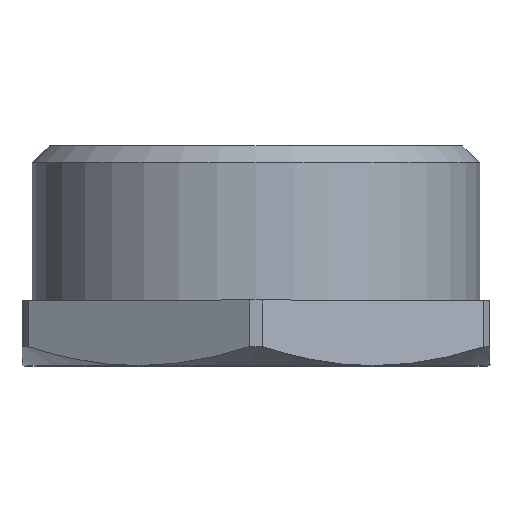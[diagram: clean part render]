
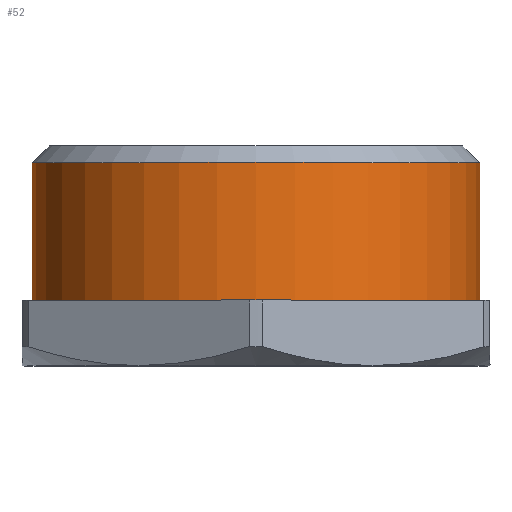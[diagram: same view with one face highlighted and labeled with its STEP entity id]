
A CAD part, top view. The second image highlights one B-rep face of the part: STEP entity #52.
In plain terms, the highlighted cylindrical face has radius 23.901 mm (diameter 47.803 mm), a full revolution.
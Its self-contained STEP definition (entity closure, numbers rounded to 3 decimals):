
#52=ADVANCED_FACE('',(#132,#134),#136,.T.);
#132=FACE_OUTER_BOUND('',#133,.T.);
#133=EDGE_LOOP('',(#283));
#134=FACE_OUTER_BOUND('',#135,.T.);
#135=EDGE_LOOP('',(#284));
#136=CYLINDRICAL_SURFACE('',#137,23.902);
#137=AXIS2_PLACEMENT_3D('',#138,#139,#140);
#138=CARTESIAN_POINT('',(0.,0.,0.));
#139=DIRECTION('',(0.,1.,0.));
#140=DIRECTION('',(-1.,0.,0.));
#283=ORIENTED_EDGE('',*,*,#363,.F.);
#284=ORIENTED_EDGE('',*,*,#380,.T.);
#363=EDGE_CURVE('',#423,#423,#424,.T.);
#380=EDGE_CURVE('',#453,#453,#454,.T.);
#423=VERTEX_POINT('',#536);
#424=CIRCLE('',#537,23.902);
#453=VERTEX_POINT('',#875);
#454=CIRCLE('',#876,23.902);
#536=CARTESIAN_POINT('',(-23.902,21.7,0.));
#537=AXIS2_PLACEMENT_3D('',#538,#539,#540);
#538=CARTESIAN_POINT('',(0.,21.7,0.));
#539=DIRECTION('',(0.,1.,0.));
#540=DIRECTION('',(-1.,0.,0.));
#875=CARTESIAN_POINT('',(-23.902,7.,0.));
#876=AXIS2_PLACEMENT_3D('',#877,#878,#879);
#877=CARTESIAN_POINT('',(0.,7.,0.));
#878=DIRECTION('',(0.,1.,0.));
#879=DIRECTION('',(-1.,0.,0.));
